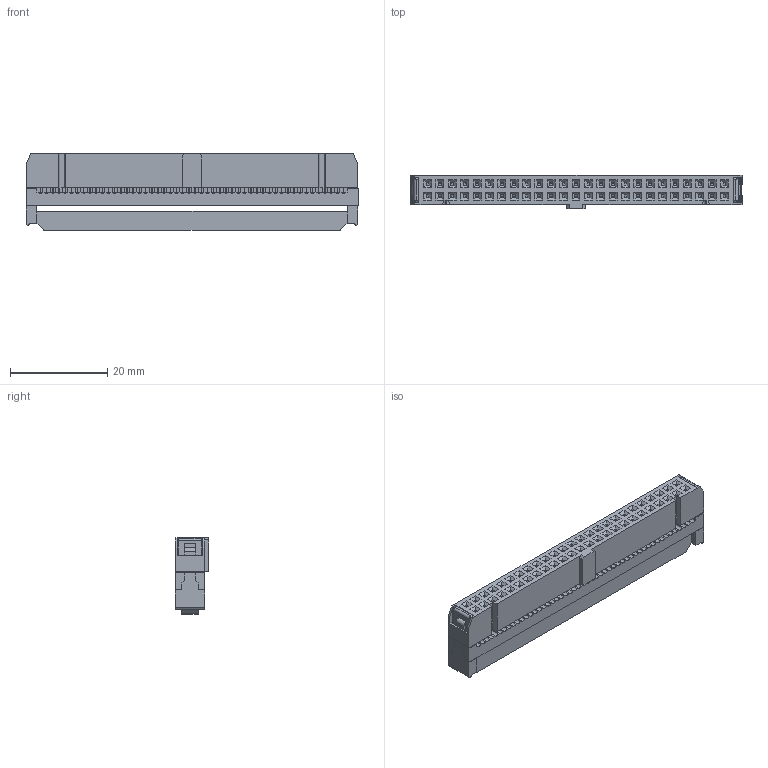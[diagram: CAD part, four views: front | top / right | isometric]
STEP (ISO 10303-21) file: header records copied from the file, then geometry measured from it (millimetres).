
FILE_DESCRIPTION(('FreeCAD Model'),'2;1');
FILE_NAME('C:/Users/Metaltex-99/Desktop/L-50.stp','2020-12-09T08:33:10', ('Engenharia Metaltex'),('Metaltex'),'Open CASCADE STEP processor 7.3' ,'FreeCAD','Unknown');
FILE_SCHEMA(('AUTOMOTIVE_DESIGN { 1 0 10303 214 1 1 1 1 }'));
Length unit declared in the file: millimetre
Products named in the file (4): L-50; 2; 3; 1
Assembly tree (3 placements, depth 2):
  L-50
    2
    3
    1
Bounding box: 68.18 x 6.86 x 15.7 mm (x, y, z)
Volume: 2073.6 mm3; surface area: 8348.9 mm2
Topology: 2 solids, 53 shells, 2801 faces, 7691 edges, 4990 vertices
Faces by surface type: plane 2136, cylinder 642, extrusion 11, sphere 4, torus 4, bspline 4
Entity records: 190424 total; most frequent: CARTESIAN_POINT 34013, DIRECTION 29561, VECTOR 20205, LINE 20194, ORIENTED_EDGE 15374, PCURVE 15374, DEFINITIONAL_REPRESENTATION 15374, EDGE_CURVE 7687
